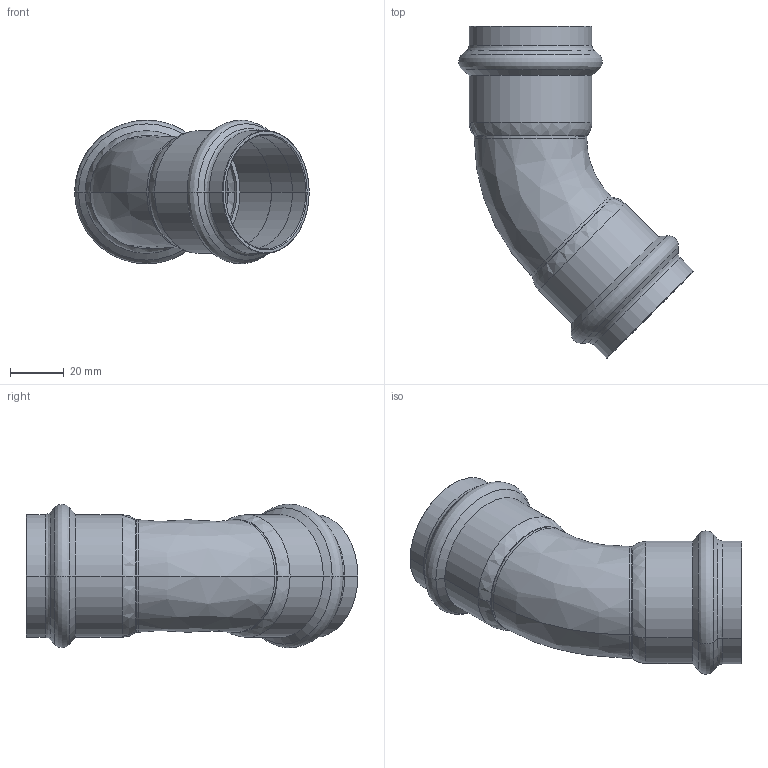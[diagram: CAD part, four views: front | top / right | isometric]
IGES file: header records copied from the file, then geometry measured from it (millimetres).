
Start section: Elysium IGES Interface
Global section: file name: C:\Users\Wallenburg\Desktop\3d modellen sudo\S-Pr VP\SP6041V\6041VW42.igs; native system: CoCreate Modeling 17.00A  17-Jun-2010; preprocessor: CoCreate IGES_3D V2.2; author: Unknown; organization: Unknown; date: 20130116.085630; units: millimetre
Bounding box: 87.58 x 123.96 x 53.57 mm (x, y, z)
Volume: 37038.1 mm3; surface area: 36055.5 mm2
Topology: 1 solids, 1 shells, 90 faces, 184 edges, 96 vertices
Faces by surface type: bspline 90
